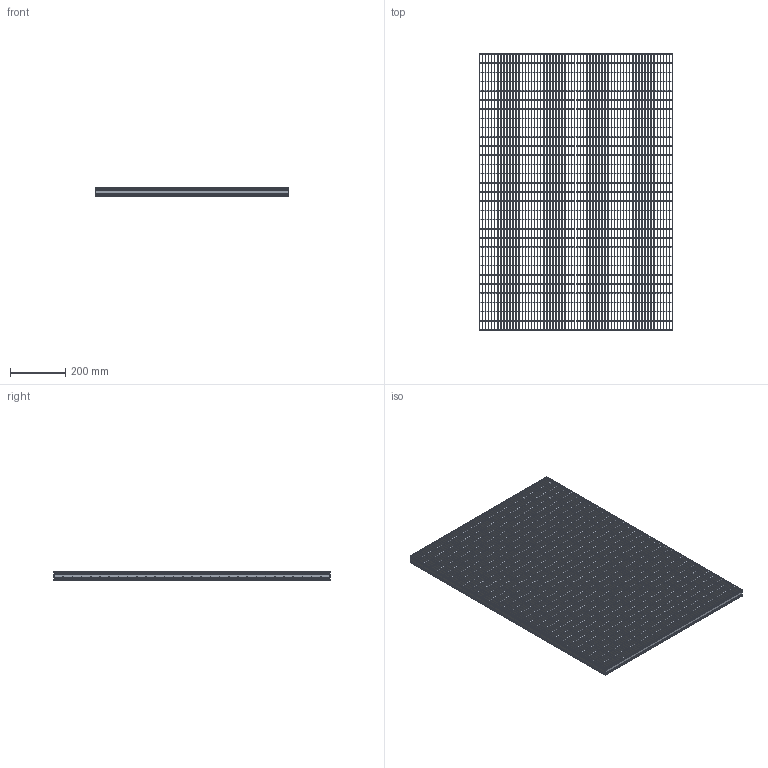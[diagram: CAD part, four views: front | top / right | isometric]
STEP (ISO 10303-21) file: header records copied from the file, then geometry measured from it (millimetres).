
FILE_DESCRIPTION(/* description */ ('STEP AP242','CAx-IF Rec.Pracs.---Representation and Presentation of Product Manufacturing Information (PMI)---4.0---2014-10-13','CAx-IF Rec.Pracs.---3D Tessellated Geometry---0.4---2014-09-14','2;1'),/* implementation_level */ '2;1');
FILE_NAME(/* name */ 'Lichtgitter_Pressure_locked_gratings P 230-33_11-2-1-1-700-1000_(350_0)',/* time_stamp */ '2026-04-23T10:12:51+02:00',/* author */ ('License CC BY-ND 4.0'),/* organization */ ('CADENAS'),/* preprocessor_version */ 'ST-DEVELOPER v20',/* originating_system */ 'PARTsolutions',/* authorisation */ ' ');
FILE_SCHEMA (('AP242_MANAGED_MODEL_BASED_3D_ENGINEERING_MIM_LF { 1 0 10303 442 1 1 4 }'));
Length unit declared in the file: millimetre
Products named in the file (5): Lichtgitter_Pressure_locked_gratings P 230-33/11-2-1-1-700-1000_(350_
0); Lichtgitter P 230-11.11/33-2_(Pressroste_350_1_1000_700)_VERTICAL; Lichtgitter P 230-11.11/33-2_(Pressroste_350_1_1000_700)_HORIZONTAL_C; Lichtgitter P 230-11.11/33-2_(Pressroste_350_1_1000_700)_HORIZONTAL; Lichtgitter P 230-11.11/33-2_(Pressroste_350_1_1000_700)_VERTICAL_C
Assembly tree (95 placements, depth 2):
  Lichtgitter_Pressure_locked_gratings P 230-33/11-2-1-1-700-1000_(350_
0)
    Lichtgitter P 230-11.11/33-2_(Pressroste_350_1_1000_700)_VERTICAL  x2
    Lichtgitter P 230-11.11/33-2_(Pressroste_350_1_1000_700)_HORIZONTAL_C  x29
    Lichtgitter P 230-11.11/33-2_(Pressroste_350_1_1000_700)_HORIZONTAL  x2
    Lichtgitter P 230-11.11/33-2_(Pressroste_350_1_1000_700)_VERTICAL_C  x62
Bounding box: 700 x 1000 x 30 mm (x, y, z)
Volume: 2606115.1 mm3; surface area: 3013797.2 mm2
Topology: 95 solids, 95 shells, 7810 faces, 22860 edges, 15240 vertices
Faces by surface type: plane 7778, cylinder 32
Entity records: 10467 total; most frequent: CARTESIAN_POINT 1832, ORIENTED_EDGE 1728, DIRECTION 1680, EDGE_CURVE 864, LINE 832, VECTOR 832, VERTEX_POINT 576, AXIS2_PLACEMENT_3D 424
